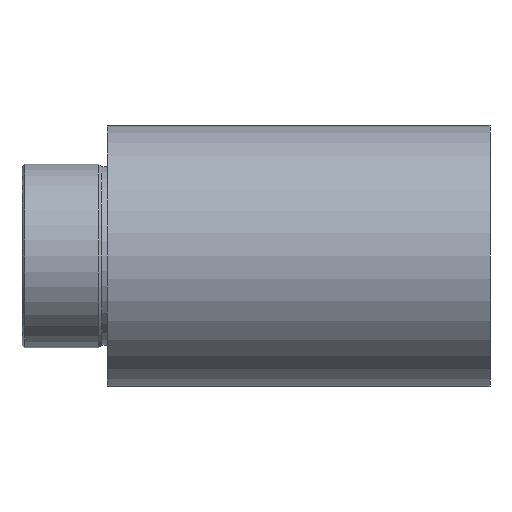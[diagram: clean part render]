
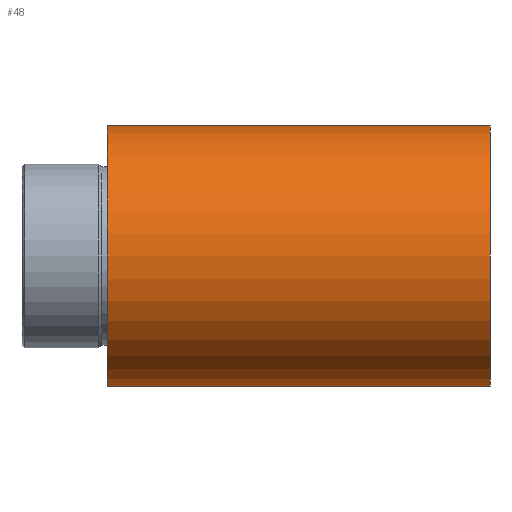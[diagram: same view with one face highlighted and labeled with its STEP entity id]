
A CAD part, left-side view. The second image highlights one B-rep face of the part: STEP entity #48.
In plain terms, the highlighted cylindrical face has radius 17.462 mm (diameter 34.925 mm), a partial arc.
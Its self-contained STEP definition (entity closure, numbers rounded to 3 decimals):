
#1 = VECTOR ( 'NONE', #469, 1000. ) ;
#2 = DIRECTION ( 'NONE',  ( 0., 0., 1. ) ) ;
#35 = CYLINDRICAL_SURFACE ( 'NONE', #69, 17.463 ) ;
#48 = ADVANCED_FACE ( 'NONE', ( #95 ), #35, .T. ) ;
#69 = AXIS2_PLACEMENT_3D ( 'NONE', #362, #443, #498 ) ;
#78 = CARTESIAN_POINT ( 'NONE',  ( 41.665, 221.432, -17.463 ) ) ;
#80 = EDGE_CURVE ( 'NONE', #229, #652, #124, .T. ) ;
#95 = FACE_OUTER_BOUND ( 'NONE', #549, .T. ) ;
#103 = ORIENTED_EDGE ( 'NONE', *, *, #80, .F. ) ;
#111 = CARTESIAN_POINT ( 'NONE',  ( 41.665, 272.613, 0. ) ) ;
#117 = ORIENTED_EDGE ( 'NONE', *, *, #503, .T. ) ;
#124 = LINE ( 'NONE', #130, #1 ) ;
#130 = CARTESIAN_POINT ( 'NONE',  ( 41.665, 302.71, -17.463 ) ) ;
#131 = EDGE_CURVE ( 'NONE', #412, #389, #600, .T. ) ;
#146 = ORIENTED_EDGE ( 'NONE', *, *, #131, .T. ) ;
#148 = ORIENTED_EDGE ( 'NONE', *, *, #534, .F. ) ;
#167 = DIRECTION ( 'NONE',  ( 0., 0., 1. ) ) ;
#207 = DIRECTION ( 'NONE',  ( 0., 1., 0. ) ) ;
#229 = VERTEX_POINT ( 'NONE', #78 ) ;
#281 = CARTESIAN_POINT ( 'NONE',  ( 41.665, 272.613, 17.462 ) ) ;
#333 = DIRECTION ( 'NONE',  ( 0., 1., 0. ) ) ;
#362 = CARTESIAN_POINT ( 'NONE',  ( 41.665, 302.71, 0. ) ) ;
#389 = VERTEX_POINT ( 'NONE', #281 ) ;
#412 = VERTEX_POINT ( 'NONE', #646 ) ;
#443 = DIRECTION ( 'NONE',  ( 0., 1., 0. ) ) ;
#469 = DIRECTION ( 'NONE',  ( 0., 1., 0. ) ) ;
#478 = CARTESIAN_POINT ( 'NONE',  ( 41.665, 272.613, -17.463 ) ) ;
#485 = DIRECTION ( 'NONE',  ( 0., 1., 0. ) ) ;
#498 = DIRECTION ( 'NONE',  ( 0., 0., 1. ) ) ;
#503 = EDGE_CURVE ( 'NONE', #229, #412, #694, .T. ) ;
#525 = CARTESIAN_POINT ( 'NONE',  ( 41.665, 302.71, 17.462 ) ) ;
#530 = VECTOR ( 'NONE', #207, 1000. ) ;
#534 = EDGE_CURVE ( 'NONE', #652, #389, #702, .T. ) ;
#549 = EDGE_LOOP ( 'NONE', ( #103, #117, #146, #148 ) ) ;
#560 = AXIS2_PLACEMENT_3D ( 'NONE', #111, #485, #167 ) ;
#565 = AXIS2_PLACEMENT_3D ( 'NONE', #641, #333, #2 ) ;
#600 = LINE ( 'NONE', #525, #530 ) ;
#641 = CARTESIAN_POINT ( 'NONE',  ( 41.665, 221.432, 0. ) ) ;
#646 = CARTESIAN_POINT ( 'NONE',  ( 41.665, 221.432, 17.462 ) ) ;
#652 = VERTEX_POINT ( 'NONE', #478 ) ;
#694 = CIRCLE ( 'NONE', #565, 17.463 ) ;
#702 = CIRCLE ( 'NONE', #560, 17.463 ) ;
